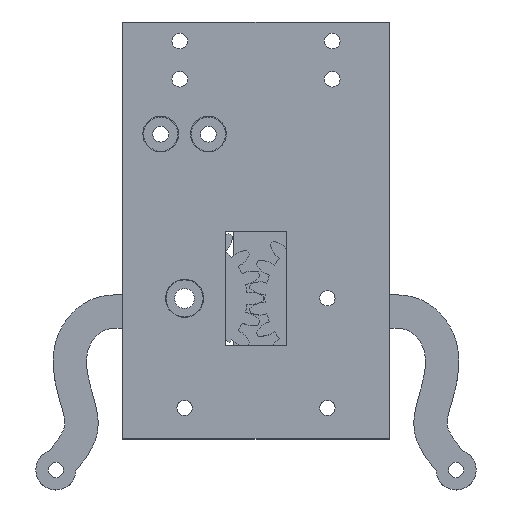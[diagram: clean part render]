
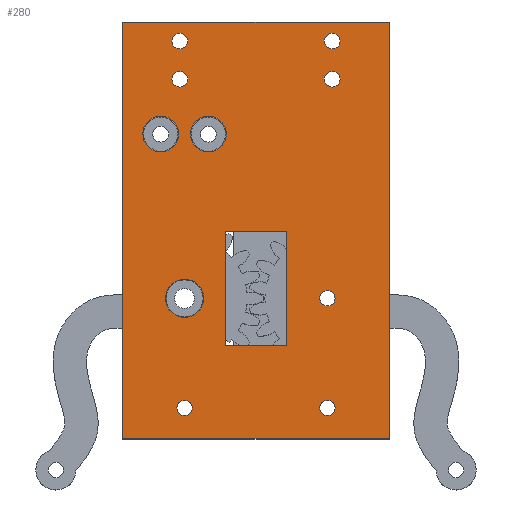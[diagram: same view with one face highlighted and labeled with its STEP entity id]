
A CAD part, top view. The second image highlights one B-rep face of the part: STEP entity #280.
In plain terms, the highlighted planar face has unit normal (0, 0, 1).
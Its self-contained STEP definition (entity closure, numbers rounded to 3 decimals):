
#24 = VERTEX_POINT('',#25);
#25 = CARTESIAN_POINT('',(-28.,-229.5,48.));
#31 = EDGE_CURVE('',#24,#32,#34,.T.);
#32 = VERTEX_POINT('',#33);
#33 = CARTESIAN_POINT('',(28.,-229.5,48.));
#34 = LINE('',#35,#36);
#35 = CARTESIAN_POINT('',(-28.,-229.5,48.));
#36 = VECTOR('',#37,1.);
#37 = DIRECTION('',(1.,0.,0.));
#64 = VERTEX_POINT('',#65);
#65 = CARTESIAN_POINT('',(-28.,-142.,48.));
#71 = EDGE_CURVE('',#64,#24,#72,.T.);
#72 = LINE('',#73,#74);
#73 = CARTESIAN_POINT('',(-28.,-142.,48.));
#74 = VECTOR('',#75,1.);
#75 = DIRECTION('',(0.,-1.,0.));
#93 = EDGE_CURVE('',#32,#94,#96,.T.);
#94 = VERTEX_POINT('',#95);
#95 = CARTESIAN_POINT('',(28.,-142.,48.));
#96 = LINE('',#97,#98);
#97 = CARTESIAN_POINT('',(28.,-229.5,48.));
#98 = VECTOR('',#99,1.);
#99 = DIRECTION('',(0.,1.,0.));
#280 = ADVANCED_FACE('',(#281,#292,#326,#337,#348,#359,#370,#381,#392,
    #403,#414,#425),#436,.T.);
#281 = FACE_BOUND('',#282,.T.);
#282 = EDGE_LOOP('',(#283,#284,#285,#291));
#283 = ORIENTED_EDGE('',*,*,#31,.T.);
#284 = ORIENTED_EDGE('',*,*,#93,.T.);
#285 = ORIENTED_EDGE('',*,*,#286,.T.);
#286 = EDGE_CURVE('',#94,#64,#287,.T.);
#287 = LINE('',#288,#289);
#288 = CARTESIAN_POINT('',(28.,-142.,48.));
#289 = VECTOR('',#290,1.);
#290 = DIRECTION('',(-1.,0.,0.));
#291 = ORIENTED_EDGE('',*,*,#71,.T.);
#292 = FACE_BOUND('',#293,.F.);
#293 = EDGE_LOOP('',(#294,#304,#312,#320));
#294 = ORIENTED_EDGE('',*,*,#295,.T.);
#295 = EDGE_CURVE('',#296,#298,#300,.T.);
#296 = VERTEX_POINT('',#297);
#297 = CARTESIAN_POINT('',(-6.5,-210.,48.));
#298 = VERTEX_POINT('',#299);
#299 = CARTESIAN_POINT('',(6.5,-210.,48.));
#300 = LINE('',#301,#302);
#301 = CARTESIAN_POINT('',(-6.5,-210.,48.));
#302 = VECTOR('',#303,1.);
#303 = DIRECTION('',(1.,0.,0.));
#304 = ORIENTED_EDGE('',*,*,#305,.T.);
#305 = EDGE_CURVE('',#298,#306,#308,.T.);
#306 = VERTEX_POINT('',#307);
#307 = CARTESIAN_POINT('',(6.5,-186.,48.));
#308 = LINE('',#309,#310);
#309 = CARTESIAN_POINT('',(6.5,-210.,48.));
#310 = VECTOR('',#311,1.);
#311 = DIRECTION('',(0.,1.,0.));
#312 = ORIENTED_EDGE('',*,*,#313,.T.);
#313 = EDGE_CURVE('',#306,#314,#316,.T.);
#314 = VERTEX_POINT('',#315);
#315 = CARTESIAN_POINT('',(-6.5,-186.,48.));
#316 = LINE('',#317,#318);
#317 = CARTESIAN_POINT('',(6.5,-186.,48.));
#318 = VECTOR('',#319,1.);
#319 = DIRECTION('',(-1.,0.,0.));
#320 = ORIENTED_EDGE('',*,*,#321,.T.);
#321 = EDGE_CURVE('',#314,#296,#322,.T.);
#322 = LINE('',#323,#324);
#323 = CARTESIAN_POINT('',(-6.5,-186.,48.));
#324 = VECTOR('',#325,1.);
#325 = DIRECTION('',(0.,-1.,0.));
#326 = FACE_BOUND('',#327,.F.);
#327 = EDGE_LOOP('',(#328));
#328 = ORIENTED_EDGE('',*,*,#329,.T.);
#329 = EDGE_CURVE('',#330,#330,#332,.T.);
#330 = VERTEX_POINT('',#331);
#331 = CARTESIAN_POINT('',(-11.,-200.,48.));
#332 = CIRCLE('',#333,4.);
#333 = AXIS2_PLACEMENT_3D('',#334,#335,#336);
#334 = CARTESIAN_POINT('',(-15.,-200.,48.));
#335 = DIRECTION('',(0.,0.,1.));
#336 = DIRECTION('',(1.,0.,0.));
#337 = FACE_BOUND('',#338,.F.);
#338 = EDGE_LOOP('',(#339));
#339 = ORIENTED_EDGE('',*,*,#340,.T.);
#340 = EDGE_CURVE('',#341,#341,#343,.T.);
#341 = VERTEX_POINT('',#342);
#342 = CARTESIAN_POINT('',(-16.25,-165.5,48.));
#343 = CIRCLE('',#344,3.75);
#344 = AXIS2_PLACEMENT_3D('',#345,#346,#347);
#345 = CARTESIAN_POINT('',(-20.,-165.5,48.));
#346 = DIRECTION('',(0.,0.,1.));
#347 = DIRECTION('',(1.,0.,0.));
#348 = FACE_BOUND('',#349,.F.);
#349 = EDGE_LOOP('',(#350));
#350 = ORIENTED_EDGE('',*,*,#351,.T.);
#351 = EDGE_CURVE('',#352,#352,#354,.T.);
#352 = VERTEX_POINT('',#353);
#353 = CARTESIAN_POINT('',(-6.25,-165.5,48.));
#354 = CIRCLE('',#355,3.75);
#355 = AXIS2_PLACEMENT_3D('',#356,#357,#358);
#356 = CARTESIAN_POINT('',(-10.,-165.5,48.));
#357 = DIRECTION('',(0.,0.,1.));
#358 = DIRECTION('',(1.,0.,0.));
#359 = FACE_BOUND('',#360,.F.);
#360 = EDGE_LOOP('',(#361));
#361 = ORIENTED_EDGE('',*,*,#362,.T.);
#362 = EDGE_CURVE('',#363,#363,#365,.T.);
#363 = VERTEX_POINT('',#364);
#364 = CARTESIAN_POINT('',(-14.35,-146.,48.));
#365 = CIRCLE('',#366,1.65);
#366 = AXIS2_PLACEMENT_3D('',#367,#368,#369);
#367 = CARTESIAN_POINT('',(-16.,-146.,48.));
#368 = DIRECTION('',(0.,0.,1.));
#369 = DIRECTION('',(1.,0.,0.));
#370 = FACE_BOUND('',#371,.F.);
#371 = EDGE_LOOP('',(#372));
#372 = ORIENTED_EDGE('',*,*,#373,.T.);
#373 = EDGE_CURVE('',#374,#374,#376,.T.);
#374 = VERTEX_POINT('',#375);
#375 = CARTESIAN_POINT('',(-14.35,-154.,48.));
#376 = CIRCLE('',#377,1.65);
#377 = AXIS2_PLACEMENT_3D('',#378,#379,#380);
#378 = CARTESIAN_POINT('',(-16.,-154.,48.));
#379 = DIRECTION('',(0.,0.,1.));
#380 = DIRECTION('',(1.,0.,0.));
#381 = FACE_BOUND('',#382,.F.);
#382 = EDGE_LOOP('',(#383));
#383 = ORIENTED_EDGE('',*,*,#384,.T.);
#384 = EDGE_CURVE('',#385,#385,#387,.T.);
#385 = VERTEX_POINT('',#386);
#386 = CARTESIAN_POINT('',(17.65,-146.,48.));
#387 = CIRCLE('',#388,1.65);
#388 = AXIS2_PLACEMENT_3D('',#389,#390,#391);
#389 = CARTESIAN_POINT('',(16.,-146.,48.));
#390 = DIRECTION('',(0.,0.,1.));
#391 = DIRECTION('',(1.,0.,0.));
#392 = FACE_BOUND('',#393,.F.);
#393 = EDGE_LOOP('',(#394));
#394 = ORIENTED_EDGE('',*,*,#395,.T.);
#395 = EDGE_CURVE('',#396,#396,#398,.T.);
#396 = VERTEX_POINT('',#397);
#397 = CARTESIAN_POINT('',(17.65,-154.,48.));
#398 = CIRCLE('',#399,1.65);
#399 = AXIS2_PLACEMENT_3D('',#400,#401,#402);
#400 = CARTESIAN_POINT('',(16.,-154.,48.));
#401 = DIRECTION('',(0.,0.,1.));
#402 = DIRECTION('',(1.,0.,0.));
#403 = FACE_BOUND('',#404,.F.);
#404 = EDGE_LOOP('',(#405));
#405 = ORIENTED_EDGE('',*,*,#406,.T.);
#406 = EDGE_CURVE('',#407,#407,#409,.T.);
#407 = VERTEX_POINT('',#408);
#408 = CARTESIAN_POINT('',(16.6,-200.,48.));
#409 = CIRCLE('',#410,1.6);
#410 = AXIS2_PLACEMENT_3D('',#411,#412,#413);
#411 = CARTESIAN_POINT('',(15.,-200.,48.));
#412 = DIRECTION('',(0.,0.,1.));
#413 = DIRECTION('',(1.,0.,0.));
#414 = FACE_BOUND('',#415,.F.);
#415 = EDGE_LOOP('',(#416));
#416 = ORIENTED_EDGE('',*,*,#417,.T.);
#417 = EDGE_CURVE('',#418,#418,#420,.T.);
#418 = VERTEX_POINT('',#419);
#419 = CARTESIAN_POINT('',(-13.4,-223.,48.));
#420 = CIRCLE('',#421,1.6);
#421 = AXIS2_PLACEMENT_3D('',#422,#423,#424);
#422 = CARTESIAN_POINT('',(-15.,-223.,48.));
#423 = DIRECTION('',(0.,0.,1.));
#424 = DIRECTION('',(1.,0.,0.));
#425 = FACE_BOUND('',#426,.F.);
#426 = EDGE_LOOP('',(#427));
#427 = ORIENTED_EDGE('',*,*,#428,.T.);
#428 = EDGE_CURVE('',#429,#429,#431,.T.);
#429 = VERTEX_POINT('',#430);
#430 = CARTESIAN_POINT('',(16.6,-223.,48.));
#431 = CIRCLE('',#432,1.6);
#432 = AXIS2_PLACEMENT_3D('',#433,#434,#435);
#433 = CARTESIAN_POINT('',(15.,-223.,48.));
#434 = DIRECTION('',(0.,0.,1.));
#435 = DIRECTION('',(1.,0.,0.));
#436 = PLANE('',#437);
#437 = AXIS2_PLACEMENT_3D('',#438,#439,#440);
#438 = CARTESIAN_POINT('',(-1.608,-185.594,48.));
#439 = DIRECTION('',(0.,0.,1.));
#440 = DIRECTION('',(1.,0.,0.));
